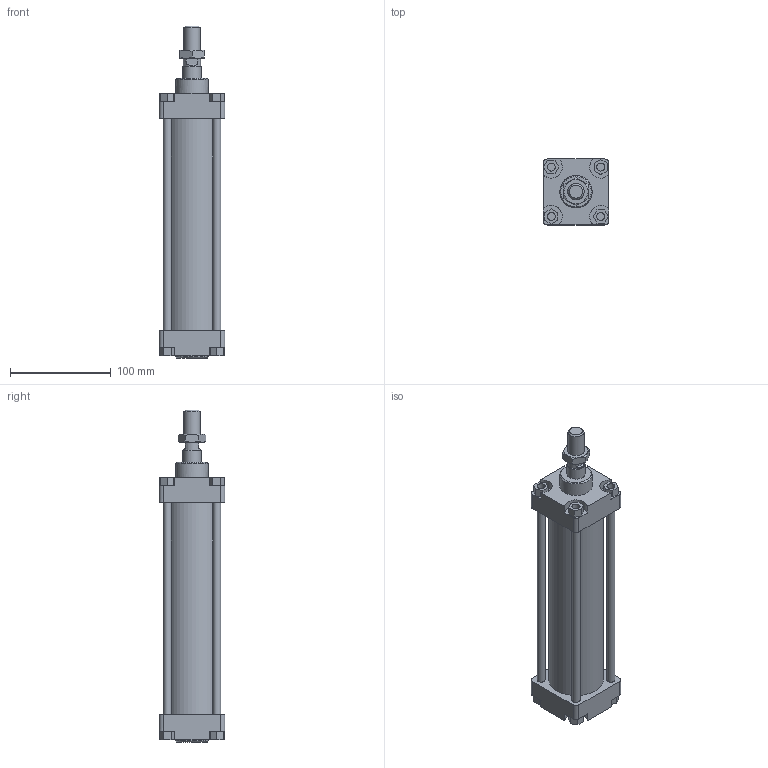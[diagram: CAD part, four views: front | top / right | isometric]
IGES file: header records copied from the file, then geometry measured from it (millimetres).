
Global section: file name: 130#_050_0150_01A; native system: Autodesk Inventor 2014; preprocessor: unknown; author: A. Manieri; date: 20161123.145501; units: millimetre
Bounding box: 65 x 65 x 329 mm (x, y, z)
Volume: 473831.7 mm3; surface area: 162178.5 mm2
Topology: 9 solids, 9 shells, 163 faces, 401 edges, 268 vertices
Faces by surface type: bspline 163
